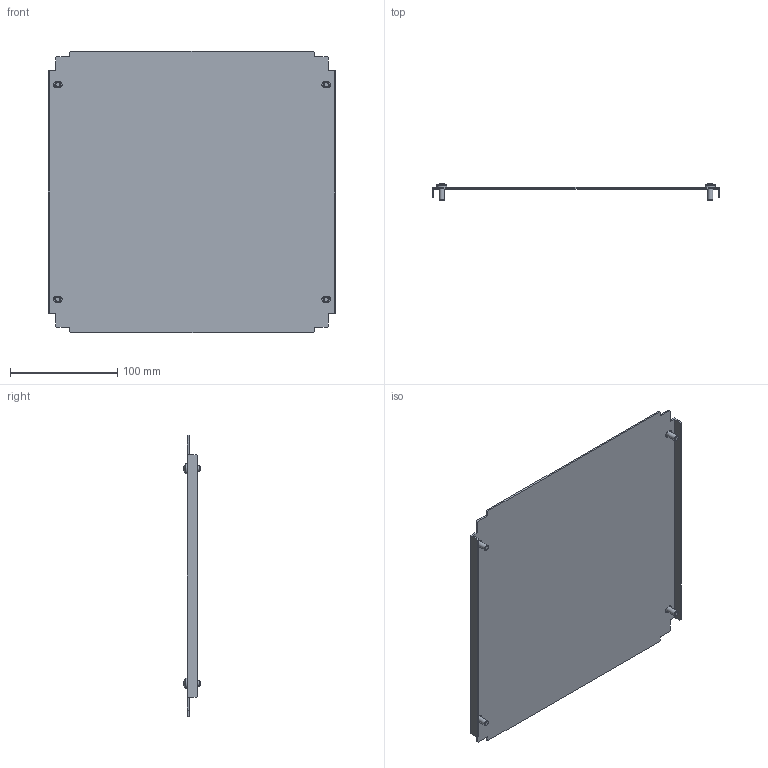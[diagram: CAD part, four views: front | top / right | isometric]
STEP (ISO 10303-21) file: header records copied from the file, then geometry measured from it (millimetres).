
FILE_DESCRIPTION (( 'STEP AP203' ), '1' );
FILE_NAME ('R5N1BP44.STEP', '2025-02-21T13:48:50', ( '' ), ( '' ), 'SwSTEP 2.0', 'SolidWorks 2022', '' );
FILE_SCHEMA (( 'CONFIG_CONTROL_DESIGN' ));
Length unit declared in the file: millimetre
Products named in the file (3): RB.1923.00.00.0_-04; R5N1BP44; M5x12 DIN 7500 C Torx Zinc_stright
Assembly tree (5 placements, depth 2):
  R5N1BP44
    RB.1923.00.00.0_-04
    M5x12 DIN 7500 C Torx Zinc_stright  x4
Bounding box: 268 x 15.56 x 262 mm (x, y, z)
Volume: 110708.6 mm3; surface area: 148811.7 mm2
Topology: 5 solids, 5 shells, 126 faces, 300 edges, 188 vertices
Faces by surface type: plane 86, cylinder 16, torus 8, cone 8, sphere 4, bspline 4
Full cylindrical faces by diameter (mm): 5 x4, 9.5 x4
Entity records: 2953 total; most frequent: CARTESIAN_POINT 624, ORIENTED_EDGE 400, DIRECTION 392, EDGE_CURVE 200, VECTOR 164, LINE 164, VERTEX_POINT 134, AXIS2_PLACEMENT_3D 114
